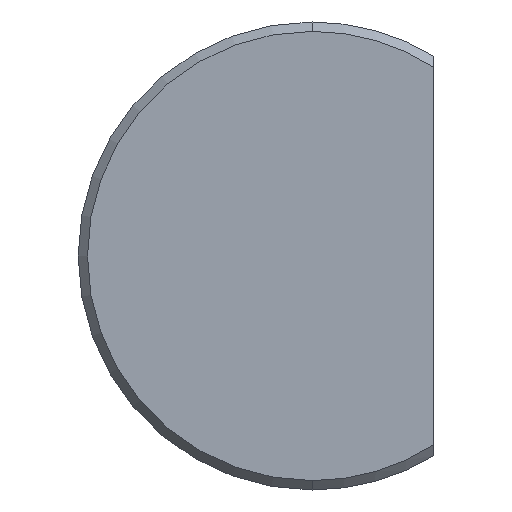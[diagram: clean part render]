
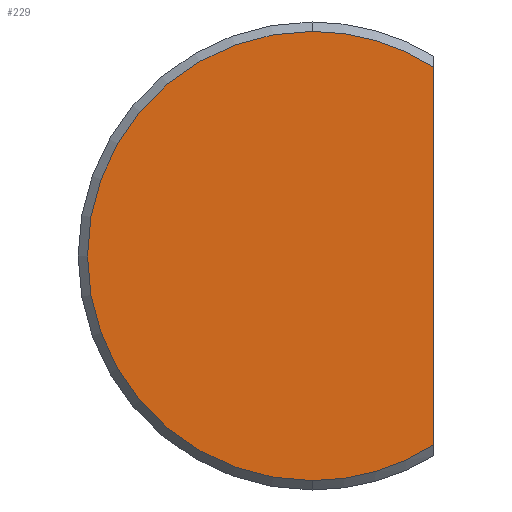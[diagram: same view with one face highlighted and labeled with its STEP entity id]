
A CAD part, front view. The second image highlights one B-rep face of the part: STEP entity #229.
In plain terms, the highlighted planar face has unit normal (0, -1, 0).
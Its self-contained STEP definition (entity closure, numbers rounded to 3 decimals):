
#49 = ORIENTED_EDGE ( 'NONE', *, *, #133, .T. ) ;
#51 = EDGE_CURVE ( 'NONE', #457, #235, #189, .T. ) ;
#54 = CIRCLE ( 'NONE', #144, 4.8 ) ;
#73 = CARTESIAN_POINT ( 'NONE',  ( 0., 0., 0. ) ) ;
#75 = EDGE_LOOP ( 'NONE', ( #537, #141, #230, #49 ) ) ;
#85 = DIRECTION ( 'NONE',  ( 0., -1., 0. ) ) ;
#125 = VERTEX_POINT ( 'NONE', #162 ) ;
#133 = EDGE_CURVE ( 'NONE', #565, #125, #344, .T. ) ;
#134 = DIRECTION ( 'NONE',  ( 0., 0., -1. ) ) ;
#141 = ORIENTED_EDGE ( 'NONE', *, *, #51, .T. ) ;
#144 = AXIS2_PLACEMENT_3D ( 'NONE', #361, #263, #134 ) ;
#162 = CARTESIAN_POINT ( 'NONE',  ( 2.6, 0., 4.035 ) ) ;
#189 = CIRCLE ( 'NONE', #206, 4.8 ) ;
#206 = AXIS2_PLACEMENT_3D ( 'NONE', #488, #284, #477 ) ;
#216 = DIRECTION ( 'NONE',  ( 0., 0., -1. ) ) ;
#222 = PLANE ( 'NONE',  #290 ) ;
#229 = ADVANCED_FACE ( 'NONE', ( #406 ), #222, .T. ) ;
#230 = ORIENTED_EDGE ( 'NONE', *, *, #340, .T. ) ;
#235 = VERTEX_POINT ( 'NONE', #535 ) ;
#244 = DIRECTION ( 'NONE',  ( 0., 0., 1. ) ) ;
#263 = DIRECTION ( 'NONE',  ( 0., -1., 0. ) ) ;
#266 = DIRECTION ( 'NONE',  ( 0., 0., -1. ) ) ;
#284 = DIRECTION ( 'NONE',  ( 0., -1., 0. ) ) ;
#290 = AXIS2_PLACEMENT_3D ( 'NONE', #73, #85, #216 ) ;
#340 = EDGE_CURVE ( 'NONE', #235, #565, #54, .T. ) ;
#344 = LINE ( 'NONE', #525, #440 ) ;
#358 = CARTESIAN_POINT ( 'NONE',  ( 0., 0., 0. ) ) ;
#361 = CARTESIAN_POINT ( 'NONE',  ( 0., 0., 0. ) ) ;
#393 = EDGE_CURVE ( 'NONE', #125, #457, #530, .T. ) ;
#397 = CARTESIAN_POINT ( 'NONE',  ( 2.6, 0., -4.035 ) ) ;
#406 = FACE_OUTER_BOUND ( 'NONE', #75, .T. ) ;
#440 = VECTOR ( 'NONE', #244, 1000. ) ;
#457 = VERTEX_POINT ( 'NONE', #598 ) ;
#477 = DIRECTION ( 'NONE',  ( 0., 0., -1. ) ) ;
#488 = CARTESIAN_POINT ( 'NONE',  ( 0., 0., 0. ) ) ;
#493 = AXIS2_PLACEMENT_3D ( 'NONE', #358, #547, #266 ) ;
#525 = CARTESIAN_POINT ( 'NONE',  ( 2.6, 0., -4.271 ) ) ;
#530 = CIRCLE ( 'NONE', #493, 4.8 ) ;
#535 = CARTESIAN_POINT ( 'NONE',  ( 0., 0., -4.8 ) ) ;
#537 = ORIENTED_EDGE ( 'NONE', *, *, #393, .T. ) ;
#547 = DIRECTION ( 'NONE',  ( 0., -1., 0. ) ) ;
#565 = VERTEX_POINT ( 'NONE', #397 ) ;
#598 = CARTESIAN_POINT ( 'NONE',  ( 0., 0., 4.8 ) ) ;
